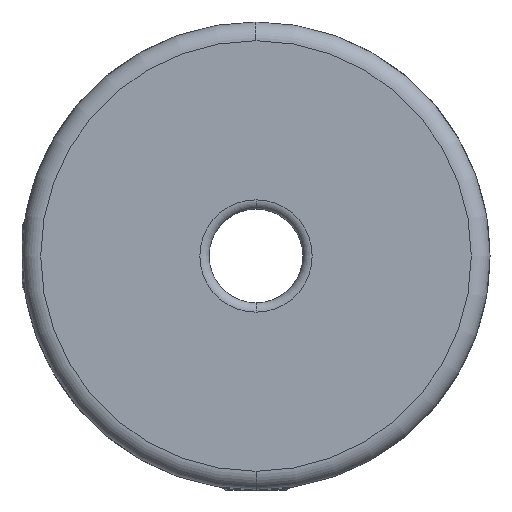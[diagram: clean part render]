
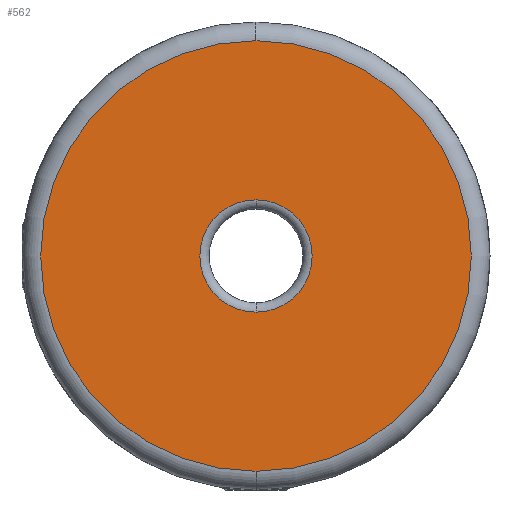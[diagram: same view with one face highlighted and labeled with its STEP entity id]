
A CAD part, left-side view. The second image highlights one B-rep face of the part: STEP entity #562.
In plain terms, the highlighted planar face has unit normal (-1, 0, 0).
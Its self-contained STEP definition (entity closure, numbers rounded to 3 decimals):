
#21 = CARTESIAN_POINT ( 'NONE',  ( -15.5, 0., -11.5 ) ) ;
#245 = FACE_BOUND ( 'NONE', #937, .T. ) ;
#251 = FACE_OUTER_BOUND ( 'NONE', #2400, .T. ) ;
#287 = CIRCLE ( 'NONE', #2265, 11.5 ) ;
#350 = CARTESIAN_POINT ( 'NONE',  ( -15.5, 0., 0. ) ) ;
#441 = DIRECTION ( 'NONE',  ( 0., 0., -1. ) ) ;
#520 = EDGE_CURVE ( 'NONE', #1811, #788, #287, .T. ) ;
#562 = ADVANCED_FACE ( 'NONE', ( #245, #251 ), #946, .F. ) ;
#752 = DIRECTION ( 'NONE',  ( 1., 0., 0. ) ) ;
#788 = VERTEX_POINT ( 'NONE', #3568 ) ;
#877 = DIRECTION ( 'NONE',  ( 0., 0., -1. ) ) ;
#937 = EDGE_LOOP ( 'NONE', ( #2119, #2130 ) ) ;
#946 = PLANE ( 'NONE',  #2200 ) ;
#972 = EDGE_CURVE ( 'NONE', #2644, #1635, #4083, .T. ) ;
#1056 = CARTESIAN_POINT ( 'NONE',  ( -15.5, 0., 0. ) ) ;
#1248 = AXIS2_PLACEMENT_3D ( 'NONE', #1689, #1677, #1668 ) ;
#1285 = DIRECTION ( 'NONE',  ( 0., 0., -1. ) ) ;
#1461 = AXIS2_PLACEMENT_3D ( 'NONE', #4244, #4240, #4228 ) ;
#1469 = DIRECTION ( 'NONE',  ( -1., 0., 0. ) ) ;
#1635 = VERTEX_POINT ( 'NONE', #3659 ) ;
#1668 = DIRECTION ( 'NONE',  ( 0., 0., -1. ) ) ;
#1677 = DIRECTION ( 'NONE',  ( -1., 0., 0. ) ) ;
#1689 = CARTESIAN_POINT ( 'NONE',  ( -15.5, 0., 0. ) ) ;
#1779 = CARTESIAN_POINT ( 'NONE',  ( -15.5, 0., 0. ) ) ;
#1811 = VERTEX_POINT ( 'NONE', #21 ) ;
#2018 = AXIS2_PLACEMENT_3D ( 'NONE', #1056, #752, #441 ) ;
#2119 = ORIENTED_EDGE ( 'NONE', *, *, #972, .T. ) ;
#2130 = ORIENTED_EDGE ( 'NONE', *, *, #2212, .T. ) ;
#2161 = DIRECTION ( 'NONE',  ( 1., 0., 0. ) ) ;
#2180 = ORIENTED_EDGE ( 'NONE', *, *, #520, .T. ) ;
#2200 = AXIS2_PLACEMENT_3D ( 'NONE', #350, #2161, #1285 ) ;
#2212 = EDGE_CURVE ( 'NONE', #1635, #2644, #3805, .T. ) ;
#2246 = ORIENTED_EDGE ( 'NONE', *, *, #2865, .T. ) ;
#2265 = AXIS2_PLACEMENT_3D ( 'NONE', #1779, #1469, #877 ) ;
#2400 = EDGE_LOOP ( 'NONE', ( #2180, #2246 ) ) ;
#2644 = VERTEX_POINT ( 'NONE', #2815 ) ;
#2815 = CARTESIAN_POINT ( 'NONE',  ( -15.5, 0., -3. ) ) ;
#2865 = EDGE_CURVE ( 'NONE', #788, #1811, #3512, .T. ) ;
#3512 = CIRCLE ( 'NONE', #1248, 11.5 ) ;
#3568 = CARTESIAN_POINT ( 'NONE',  ( -15.5, 0., 11.5 ) ) ;
#3659 = CARTESIAN_POINT ( 'NONE',  ( -15.5, 0., 3. ) ) ;
#3805 = CIRCLE ( 'NONE', #1461, 3. ) ;
#4083 = CIRCLE ( 'NONE', #2018, 3. ) ;
#4228 = DIRECTION ( 'NONE',  ( 0., 0., -1. ) ) ;
#4240 = DIRECTION ( 'NONE',  ( 1., 0., 0. ) ) ;
#4244 = CARTESIAN_POINT ( 'NONE',  ( -15.5, 0., 0. ) ) ;
